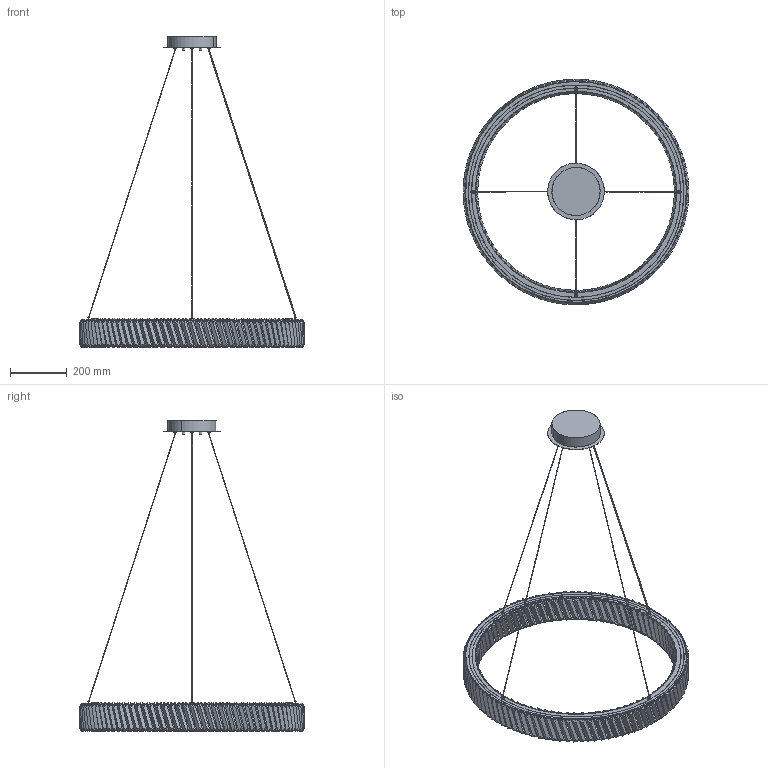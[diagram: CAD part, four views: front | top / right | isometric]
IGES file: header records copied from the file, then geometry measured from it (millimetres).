
Start section: SolidWorks IGES file using analytic representation for surfaces
Global section: file name: Y:\PRODUKT\Modele_3D_WWW\LUXORA\LUXORA ZWIS\LUXORA zwis du¿y.IGS; native system: SolidWorks 2024; preprocessor: SolidWorks 2024; author: anna.bielnik; date: 250227.110541; units: millimetre
Bounding box: 797.23 x 797.19 x 1100.37 mm (x, y, z)
Surface area: 1344835.4 mm2 (no closed solid volume)
Topology: 0 solids, 0 shells, 1802 faces, 29278 edges, 29278 vertices
Faces by surface type: bspline 980, revolution 822
